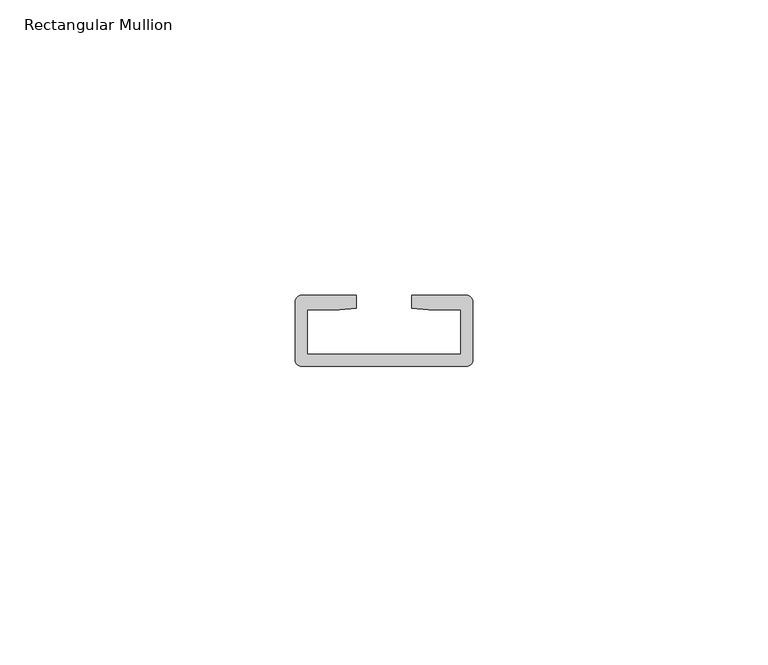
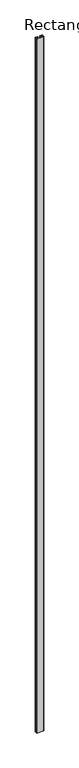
"""IFC4 building model written with IfcOpenShell, lengths in millimetres: member geometry, Rectangular Mullion : RSen_21_CWM_support profile - 30x12 - right_duco projects."""

from ifc_helpers import new_model, si_unit, point, frame, frame_2d, origin, place, context, project, spatial, polyline, circle_curve, trimmed, segment, composite_curve, outline, extrude, source, transform, mapped, element, save


def rectangular_mullion_bec287e4(model_context):
    return source(origin(), model_context, "Body", "SweptSolid", [
        extrude(outline(composite_curve([segment(polyline([(-60.3428188, 1.0), (-51.0, 1.0)]), True, "CONTINUOUS"), segment(trimmed(circle_curve(frame_2d((-51.0, 0.0)), 1.0), [point((-51.0, 1.0))], [point((-50.0, 0.0))], False, "CARTESIAN"), True, "CONTINUOUS"), segment(polyline([(-50.0, 0.0), (-50.0, -10.0)]), True, "CONTINUOUS"), segment(trimmed(circle_curve(frame_2d((-51.0, -10.0)), 1.0), [point((-50.0, -10.0))], [point((-51.0, -11.0))], False, "CARTESIAN"), True, "CONTINUOUS"), segment(polyline([(-51.0, -11.0), (-79.0, -11.0)]), True, "CONTINUOUS"), segment(trimmed(circle_curve(frame_2d((-79.0, -10.0)), 1.0), [point((-79.0, -11.0))], [point((-80.0, -10.0))], False, "CARTESIAN"), True, "CONTINUOUS"), segment(polyline([(-80.0, -10.0), (-80.0, 0.0)]), True, "CONTINUOUS"), segment(trimmed(circle_curve(frame_2d((-79.0, 0.0)), 1.0), [point((-80.0, 0.0))], [point((-79.0, 1.0))], False, "CARTESIAN"), True, "CONTINUOUS"), segment(polyline([(-79.0, 1.0), (-69.6571812, 1.0), (-69.6571812, -1.2), (-72.5399662, -1.401584), (-78.0, -1.401584), (-78.0, -9.0), (-52.0, -9.0), (-52.0, -1.401584), (-57.4600338, -1.401584), (-60.3428188, -1.2), (-60.3428188, 1.0)]), True, "CONTINUOUS")], self_intersect=False)), frame((0.0, 0.0, -3000.0), z_axis=(0.0, 0.0, 1.0), x_axis=(1.0, 0.0, 0.0)), (0.0, 0.0, 1.0), 3000.0),
    ])


if __name__ == "__main__":
    model = new_model("IFC4")
    model_context = context("Model", 3, world=origin())
    ifc_project = project(units=[si_unit("LENGTHUNIT", "METRE", prefix="MILLI")], contexts=[model_context])
    site = spatial("IfcSite", under=ifc_project)
    building = spatial("IfcBuilding", under=site)
    placement = place(None, origin())
    rectangular_mullion_shape = rectangular_mullion_bec287e4(model_context)
    element("IfcMember", 1, ObjectType="Rectangular Mullion : RSen_21_CWM_support profile - 30x12 - right_duco projects", at=placement, inside=building, context=model_context, shape_type="MappedRepresentation", body=[
        mapped(rectangular_mullion_shape, transform((0.0, 0.0, 0.0), x_axis=(1.0, 0.0, 0.0), y_axis=(0.0, 1.0, 0.0), z_axis=(0.0, 0.0, 1.0))),
    ])
    save(model, "model.ifc")
